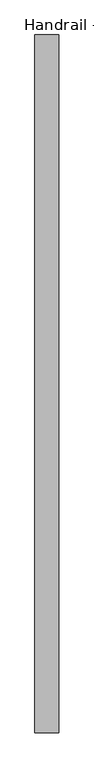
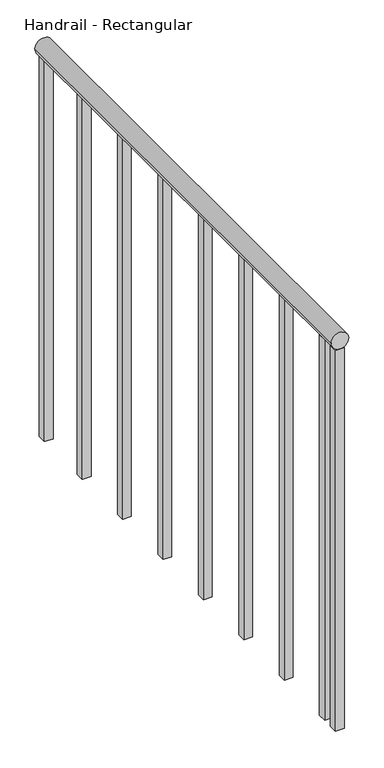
"""IFC4 building model written with IfcOpenShell, lengths in millimetres: railing geometry, Handrail - Rectangular."""

from ifc_helpers import new_model, si_unit, point, frame, frame_2d, origin, place, context, project, spatial, polyline, circle_curve, trimmed, segment, composite_curve, outline, extrude, source, transform, mapped, element, save


def handrail_rectangular_6ab010ad(model_context):
    return source(origin(), model_context, "Body", "SweptSolid", [
        extrude(outline(composite_curve([segment(trimmed(circle_curve(frame_2d((3943.35, -18451.4839563)), 19.05), [point((3943.35, -18470.5339563))], [point((3943.35, -18432.4339563))], False, "CARTESIAN"), True, "CONTINUOUS"), segment(trimmed(circle_curve(frame_2d((3943.35, -18451.4839563)), 19.05), [point((3943.35, -18432.4339563))], [point((3943.35, -18470.5339563))], False, "CARTESIAN"), True, "CONTINUOUS")], self_intersect=False)), frame((0.0, 10624.0316867, 0.0), z_axis=(0.0, 1.0, 0.0), x_axis=(0.0, 0.0, 1.0)), (0.0, 0.0, 1.0), 1117.6),
        extrude(outline(polyline([(-18441.9589563, 10684.3566867), (-18441.9589563, 10665.3066867), (-18461.0089563, 10665.3066867), (-18461.0089563, 10684.3566867), (-18441.9589563, 10684.3566867)])), frame((0.0, 0.0, 3048.0), z_axis=(0.0, 0.0, 1.0), x_axis=(1.0, 0.0, 0.0)), (0.0, 0.0, 1.0), 876.3),
        extrude(outline(polyline([(-18441.9589563, 10836.7566867), (-18441.9589563, 10817.7066867), (-18461.0089563, 10817.7066867), (-18461.0089563, 10836.7566867), (-18441.9589563, 10836.7566867)])), frame((0.0, 0.0, 3048.0), z_axis=(0.0, 0.0, 1.0), x_axis=(1.0, 0.0, 0.0)), (0.0, 0.0, 1.0), 876.3),
        extrude(outline(polyline([(-18441.9589563, 10989.1566867), (-18441.9589563, 10970.1066867), (-18461.0089563, 10970.1066867), (-18461.0089563, 10989.1566867), (-18441.9589563, 10989.1566867)])), frame((0.0, 0.0, 3048.0), z_axis=(0.0, 0.0, 1.0), x_axis=(1.0, 0.0, 0.0)), (0.0, 0.0, 1.0), 876.3),
        extrude(outline(polyline([(-18441.9589563, 11141.5566867), (-18441.9589563, 11122.5066867), (-18461.0089563, 11122.5066867), (-18461.0089563, 11141.5566867), (-18441.9589563, 11141.5566867)])), frame((0.0, 0.0, 3048.0), z_axis=(0.0, 0.0, 1.0), x_axis=(1.0, 0.0, 0.0)), (0.0, 0.0, 1.0), 876.3),
        extrude(outline(polyline([(-18441.9589563, 11293.9566867), (-18441.9589563, 11274.9066867), (-18461.0089563, 11274.9066867), (-18461.0089563, 11293.9566867), (-18441.9589563, 11293.9566867)])), frame((0.0, 0.0, 3048.0), z_axis=(0.0, 0.0, 1.0), x_axis=(1.0, 0.0, 0.0)), (0.0, 0.0, 1.0), 876.3),
        extrude(outline(polyline([(-18441.9589563, 11446.3566867), (-18441.9589563, 11427.3066867), (-18461.0089563, 11427.3066867), (-18461.0089563, 11446.3566867), (-18441.9589563, 11446.3566867)])), frame((0.0, 0.0, 3048.0), z_axis=(0.0, 0.0, 1.0), x_axis=(1.0, 0.0, 0.0)), (0.0, 0.0, 1.0), 876.3),
        extrude(outline(polyline([(-18441.9589563, 11598.7566867), (-18441.9589563, 11579.7066867), (-18461.0089563, 11579.7066867), (-18461.0089563, 11598.7566867), (-18441.9589563, 11598.7566867)])), frame((0.0, 0.0, 3048.0), z_axis=(0.0, 0.0, 1.0), x_axis=(1.0, 0.0, 0.0)), (0.0, 0.0, 1.0), 876.3),
        extrude(outline(polyline([(-18441.9589563, 10643.0816867), (-18441.9589563, 10624.0316867), (-18461.0089563, 10624.0316867), (-18461.0089563, 10643.0816867), (-18441.9589563, 10643.0816867)])), frame((0.0, 0.0, 3048.0), z_axis=(0.0, 0.0, 1.0), x_axis=(1.0, 0.0, 0.0)), (0.0, 0.0, 1.0), 876.3),
        extrude(outline(polyline([(-18441.9589563, 11741.6316867), (-18441.9589563, 11722.5816867), (-18461.0089563, 11722.5816867), (-18461.0089563, 11741.6316867), (-18441.9589563, 11741.6316867)])), frame((0.0, 0.0, 3048.0), z_axis=(0.0, 0.0, 1.0), x_axis=(1.0, 0.0, 0.0)), (0.0, 0.0, 1.0), 876.3),
    ])


if __name__ == "__main__":
    model = new_model("IFC4")
    model_context = context("Model", 3, world=origin())
    ifc_project = project(units=[si_unit("LENGTHUNIT", "METRE", prefix="MILLI")], contexts=[model_context])
    site = spatial("IfcSite", under=ifc_project)
    building = spatial("IfcBuilding", under=site)
    placement = place(None, origin())
    handrail_rectangular_shape = handrail_rectangular_6ab010ad(model_context)
    element("IfcRailing", 1, ObjectType="Handrail - Rectangular", at=placement, inside=building, context=model_context, shape_type="MappedRepresentation", body=[
        mapped(handrail_rectangular_shape, transform((0.0, 0.0, 0.0), x_axis=(1.0, 0.0, 0.0), y_axis=(0.0, 1.0, 0.0), z_axis=(0.0, 0.0, 1.0))),
    ])
    save(model, "model.ifc")
